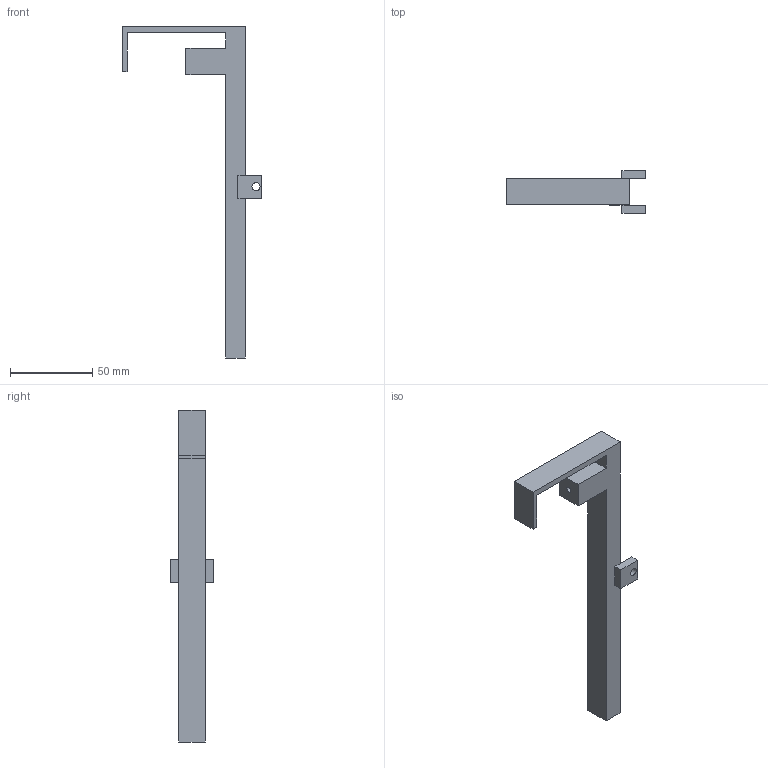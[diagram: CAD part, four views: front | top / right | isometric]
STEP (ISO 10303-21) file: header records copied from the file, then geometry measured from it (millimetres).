
FILE_DESCRIPTION(('Open CASCADE Model'),'2;1');
FILE_NAME('Open CASCADE Shape Model','2026-10-15T17:17:16',('Author'),( 'Open CASCADE'),'Open CASCADE STEP processor 7.9','Open CASCADE 7.9' ,'Unknown');
FILE_SCHEMA(('AUTOMOTIVE_DESIGN { 1 0 10303 214 1 1 1 1 }'));
Length unit declared in the file: millimetre
Products named in the file (3): Open CASCADE STEP translator 7.9 3; Open CASCADE STEP translator 7.9 3.1; Open CASCADE STEP translator 7.9 3.2
Assembly tree (2 placements, depth 2):
  Open CASCADE STEP translator 7.9 3
    Open CASCADE STEP translator 7.9 3.1
    Open CASCADE STEP translator 7.9 3.2
Bounding box: 84.86 x 26 x 201.87 mm (x, y, z)
Volume: 51610.9 mm3; surface area: 18350 mm2
Topology: 2 solids, 2 shells, 29 faces, 73 edges, 48 vertices
Faces by surface type: plane 26, cylinder 3
Full cylindrical faces by diameter (mm): 3.4 x1, 4.9 x2
Entity records: 1872 total; most frequent: CARTESIAN_POINT 325, DIRECTION 283, LINE 205, VECTOR 205, ORIENTED_EDGE 146, PCURVE 146, DEFINITIONAL_REPRESENTATION 146, EDGE_CURVE 73
